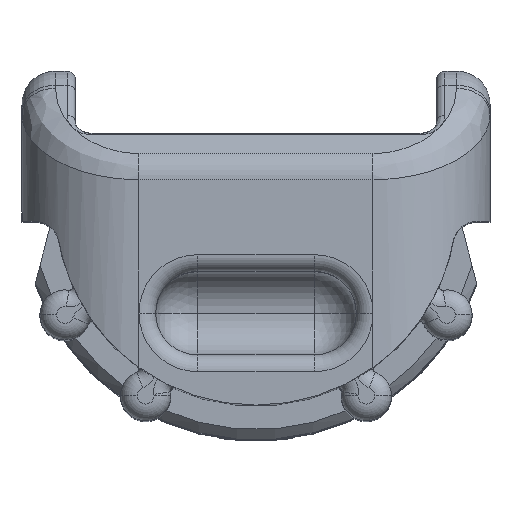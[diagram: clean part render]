
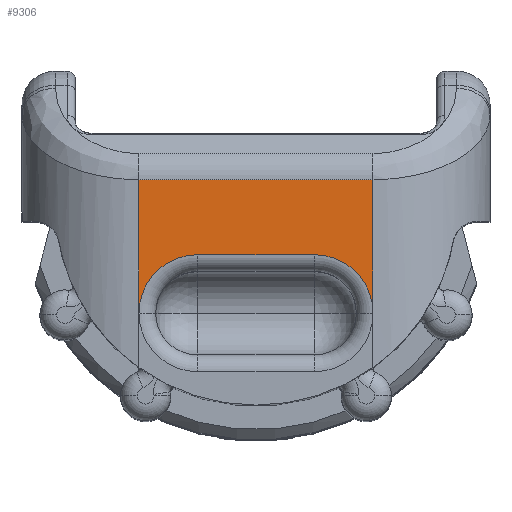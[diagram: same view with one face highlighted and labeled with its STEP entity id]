
A CAD part, top view. The second image highlights one B-rep face of the part: STEP entity #9306.
In plain terms, the highlighted planar face has unit normal (0, 0, 1).
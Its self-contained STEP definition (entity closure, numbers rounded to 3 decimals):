
#319 = VERTEX_POINT ( 'NONE', #4933 ) ;
#461 = LINE ( 'NONE', #8696, #3744 ) ;
#665 = CARTESIAN_POINT ( 'NONE',  ( 1.75, -3.25, 51.451 ) ) ;
#725 = LINE ( 'NONE', #8798, #7648 ) ;
#927 = EDGE_CURVE ( 'NONE', #4258, #4535, #725, .T. ) ;
#1384 = VECTOR ( 'NONE', #11669, 1000. ) ;
#1490 = CIRCLE ( 'NONE', #6952, 1.75 ) ;
#1557 = ORIENTED_EDGE ( 'NONE', *, *, #7465, .T. ) ;
#1641 = CARTESIAN_POINT ( 'NONE',  ( 3.5, -3.25, 51.451 ) ) ;
#1855 = CARTESIAN_POINT ( 'NONE',  ( -3.5, 0.744, 51.451 ) ) ;
#2510 = CARTESIAN_POINT ( 'NONE',  ( -3.5, 0.744, 51.451 ) ) ;
#2511 = CARTESIAN_POINT ( 'NONE',  ( -7., -3.869, 51.451 ) ) ;
#2641 = CIRCLE ( 'NONE', #11506, 1.75 ) ;
#3462 = DIRECTION ( 'NONE',  ( 0., 0., -1. ) ) ;
#3581 = PLANE ( 'NONE',  #10323 ) ;
#3621 = DIRECTION ( 'NONE',  ( 0., -1., 0. ) ) ;
#3659 = VERTEX_POINT ( 'NONE', #7860 ) ;
#3684 = LINE ( 'NONE', #7272, #10336 ) ;
#3744 = VECTOR ( 'NONE', #9531, 1000. ) ;
#3844 = ORIENTED_EDGE ( 'NONE', *, *, #4348, .T. ) ;
#4258 = VERTEX_POINT ( 'NONE', #2510 ) ;
#4348 = EDGE_CURVE ( 'NONE', #319, #4258, #7224, .T. ) ;
#4405 = DIRECTION ( 'NONE',  ( 0., 0., 1. ) ) ;
#4469 = CARTESIAN_POINT ( 'NONE',  ( -1.75, -3.25, 51.451 ) ) ;
#4535 = VERTEX_POINT ( 'NONE', #10410 ) ;
#4919 = ORIENTED_EDGE ( 'NONE', *, *, #9055, .T. ) ;
#4933 = CARTESIAN_POINT ( 'NONE',  ( 3.5, 0.744, 51.451 ) ) ;
#5119 = ORIENTED_EDGE ( 'NONE', *, *, #927, .T. ) ;
#5129 = ORIENTED_EDGE ( 'NONE', *, *, #7287, .F. ) ;
#5440 = VERTEX_POINT ( 'NONE', #1641 ) ;
#6385 = DIRECTION ( 'NONE',  ( 0., -1., 0. ) ) ;
#6698 = EDGE_CURVE ( 'NONE', #4535, #3659, #1490, .T. ) ;
#6952 = AXIS2_PLACEMENT_3D ( 'NONE', #4469, #3462, #11554 ) ;
#7088 = DIRECTION ( 'NONE',  ( 0., 0., -1. ) ) ;
#7224 = LINE ( 'NONE', #1855, #1384 ) ;
#7272 = CARTESIAN_POINT ( 'NONE',  ( 3.5, -3.869, 51.451 ) ) ;
#7287 = EDGE_CURVE ( 'NONE', #319, #5440, #3684, .T. ) ;
#7465 = EDGE_CURVE ( 'NONE', #11458, #5440, #2641, .T. ) ;
#7648 = VECTOR ( 'NONE', #3621, 1000. ) ;
#7860 = CARTESIAN_POINT ( 'NONE',  ( -1.75, -1.5, 51.451 ) ) ;
#7868 = FACE_OUTER_BOUND ( 'NONE', #11663, .T. ) ;
#8696 = CARTESIAN_POINT ( 'NONE',  ( 1.75, -1.5, 51.451 ) ) ;
#8798 = CARTESIAN_POINT ( 'NONE',  ( -3.5, -3.869, 51.451 ) ) ;
#8970 = DIRECTION ( 'NONE',  ( 1., 0., 0. ) ) ;
#8991 = ORIENTED_EDGE ( 'NONE', *, *, #6698, .T. ) ;
#9055 = EDGE_CURVE ( 'NONE', #3659, #11458, #461, .T. ) ;
#9306 = ADVANCED_FACE ( 'NONE', ( #7868 ), #3581, .T. ) ;
#9410 = CARTESIAN_POINT ( 'NONE',  ( 1.75, -1.5, 51.451 ) ) ;
#9531 = DIRECTION ( 'NONE',  ( 1., 0., 0. ) ) ;
#9704 = DIRECTION ( 'NONE',  ( 1., 0., 0. ) ) ;
#10323 = AXIS2_PLACEMENT_3D ( 'NONE', #2511, #4405, #9704 ) ;
#10336 = VECTOR ( 'NONE', #6385, 1000. ) ;
#10410 = CARTESIAN_POINT ( 'NONE',  ( -3.5, -3.25, 51.451 ) ) ;
#11458 = VERTEX_POINT ( 'NONE', #9410 ) ;
#11506 = AXIS2_PLACEMENT_3D ( 'NONE', #665, #7088, #8970 ) ;
#11554 = DIRECTION ( 'NONE',  ( 1., 0., 0. ) ) ;
#11663 = EDGE_LOOP ( 'NONE', ( #4919, #1557, #5129, #3844, #5119, #8991 ) ) ;
#11669 = DIRECTION ( 'NONE',  ( -1., 0., 0. ) ) ;
